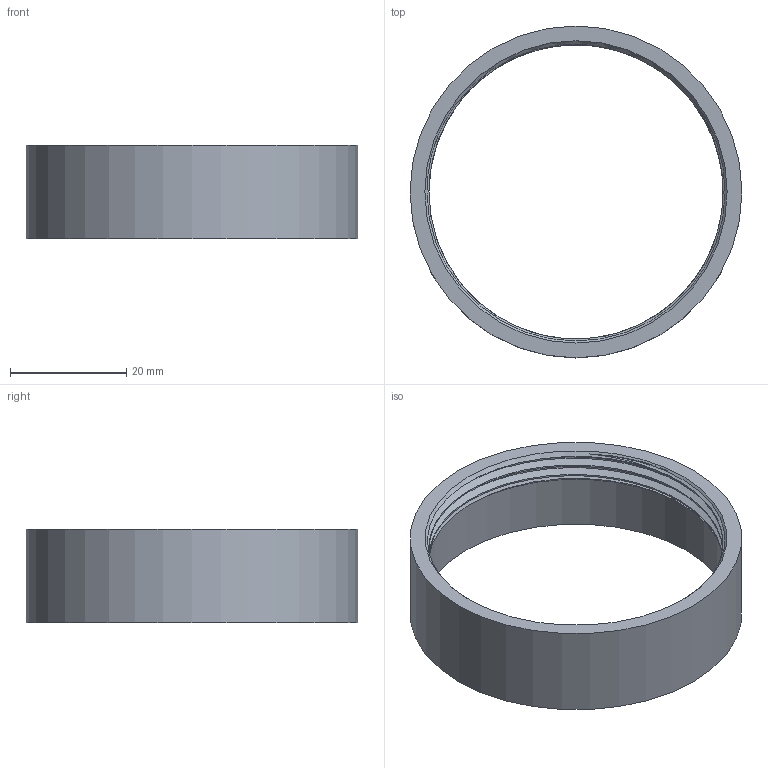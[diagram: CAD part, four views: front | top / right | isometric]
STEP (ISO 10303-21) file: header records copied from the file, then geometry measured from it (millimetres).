
FILE_DESCRIPTION(/* description */ (''),/* implementation_level */ '2;1');
FILE_NAME(/* name */ 'lock.step',/* time_stamp */ '2026-07-28T01:30:43+10:00',/* author */ (''),/* organization */ (''),/* preprocessor_version */ 'ST-DEVELOPER v20.1',/* originating_system */ 'Autodesk Translation Framework v15.8.0.0',/* authorisation */ '');
FILE_SCHEMA (('AUTOMOTIVE_DESIGN { 1 0 10303 214 3 1 1 }'));
Length unit declared in the file: millimetre
Products named in the file (1): 2026-05-17-13-56-26-723
Bounding box: 57 x 57 x 16 mm (x, y, z)
Volume: 5741.6 mm3; surface area: 7124.1 mm2
Topology: 1 solids, 1 shells, 18 faces, 45 edges, 30 vertices
Faces by surface type: cylinder 9, plane 5, bspline 2, cone 2
Full cylindrical faces by diameter (mm): 50.522 x1, 52.762 x2, 53.5 x1, 57 x1
Entity records: 1896 total; most frequent: CARTESIAN_POINT 1460, ORIENTED_EDGE 90, DIRECTION 71, EDGE_CURVE 45, AXIS2_PLACEMENT_3D 31, VERTEX_POINT 30, B_SPLINE_CURVE_WITH_KNOTS 22, EDGE_LOOP 21
